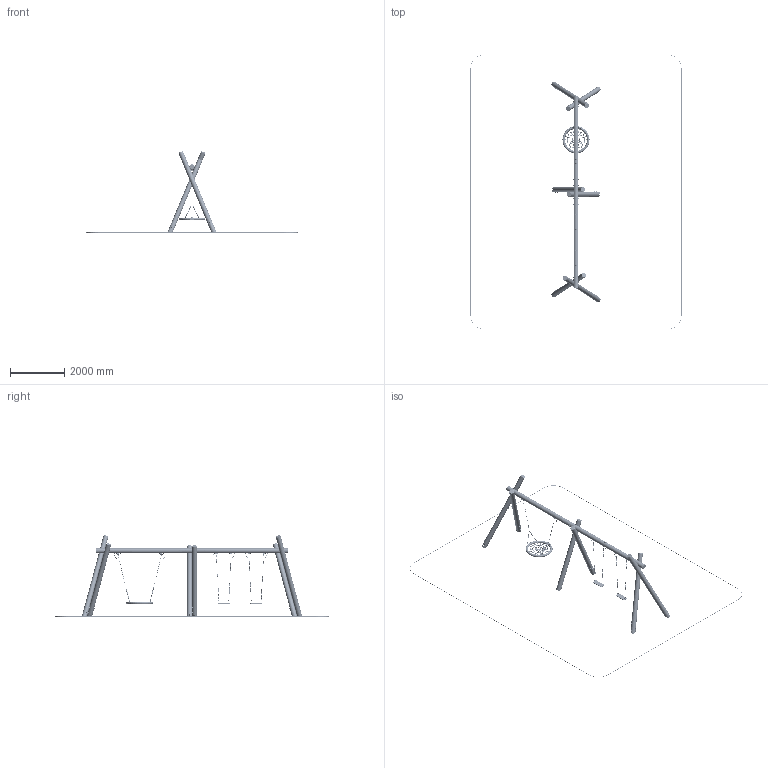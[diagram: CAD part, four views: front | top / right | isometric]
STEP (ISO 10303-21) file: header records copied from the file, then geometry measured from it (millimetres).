
FILE_DESCRIPTION(('STEP AP214'), '1');
FILE_NAME('Ê×-33.2.2', '', ('UNSPECIFIED'), ('UNSPECIFIED'), 'C3D Converter', 'C3D Toolkit', '');
FILE_SCHEMA(('AUTOMOTIVE_DESIGN { 1 0 10303 214 3 1 1}'));
Length unit declared in the file: millimetre
Products named in the file (116): КЧ-33.2.2; BaK-33-02; П-04-1900; П-03-1500-01.00; П-03-1500-01.01; П-03-1500-01.03; П-03-1500-01.02; КЧ-08.1.1.01.00.02; КЧ-08.1.1.01.00.03; КЧ-08.1.1.01.00.04; KP-02-7024; BaK-33-02-01; П-06-1900; ИЗКНТ-00141; П-06-1900-01.00; КЧ-01М.1.01.01.01.01; КЧ-01Б.1.01.01.01.01; KP-01-7024; 32ДУЧК; КИ-01.4-9017; КИ-008.02; КИ-008.01; KrB-01-7024; КЧ-33.2.00.06-9006; OpK-33; OpK-33-01; OpK-33-02; KrO-01-7024; -9006; ПФРЧП6_1; ZaK-01; -01
Assembly tree (544 placements, depth 5):
  КЧ-33.2.2
    BaK-33-02
    П-04-1900  x2
      П-03-1500-01.00
        П-03-1500-01.01
        П-03-1500-01.03  x2
        П-03-1500-01.02
        (unnamed)  x2
          (unnamed)
          (unnamed)
          (unnamed)
          (unnamed)
          (unnamed)
      КЧ-08.1.1.01.00.02
      КЧ-08.1.1.01.00.03
      (unnamed)
        (unnamed)  x88
      КЧ-08.1.1.01.00.04
      (unnamed)
        (unnamed)
        (unnamed)
      (unnamed)
        (unnamed)  x6
      (unnamed)
        (unnamed)  x3
    KP-02-7024  x4
      (unnamed)
      (unnamed)
    BaK-33-02-01
    П-06-1900
      ИЗКНТ-00141
        (unnamed)  x4
        (unnamed)
        (unnamed)
          (unnamed)
          (unnamed)  x20
        (unnamed)
      П-06-1900-01.00  x2
        КЧ-01М.1.01.01.01.01
        (unnamed)
        КЧ-01Б.1.01.01.01.01
        (unnamed)
          (unnamed)
          (unnamed)
          (unnamed)  x9
          (unnamed)
          (unnamed)
      (unnamed)  x6
      (unnamed)  x4
        (unnamed)
      (unnamed)  x2
        (unnamed)
      (unnamed)  x4
      (unnamed)  x2
        (unnamed)
          (unnamed)
          (unnamed)
        (unnamed)
          (unnamed)  x6
        (unnamed)
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Bounding box: 7800 x 10145.23 x 3001.97 mm (x, y, z)
Volume: 654463395.4 mm3; surface area: 25384169.2 mm2
Topology: 1151 solids, 1152 shells, 9575 faces, 21513 edges, 13012 vertices
Faces by surface type: cylinder 3442, plane 3080, torus 1841, bspline 512, cone 358, sphere 262, extrusion 80
Full cylindrical faces by diameter (mm): 4.5 x64, 4.917 x12, 6 x48, 6.3 x1304, 6.5 x12, 7.5 x8, 8 x6, 8.3 x64, 8.5 x12, 10 x28, 10.5 x62, 12 x78, 12.5 x114, 16 x64, 17.4 x16, 20 x30, 20.5 x4, 21 x4, 22 x8, 25 x6, 25.4 x8, 26 x48, 26.6 x16, 27.29 x8, 28 x8, 29 x18, 30 x48, 32 x54, 34 x38, 36 x38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
Entity records: 166037 total; most frequent: CARTESIAN_POINT 98310, DIRECTION 8420, ORIENTED_EDGE 8004, EDGE_CURVE 4002, AXIS2_PLACEMENT_3D 3351, VERTEX_POINT 2860, EDGE_LOOP 2608, FACE_BOUND 2020
